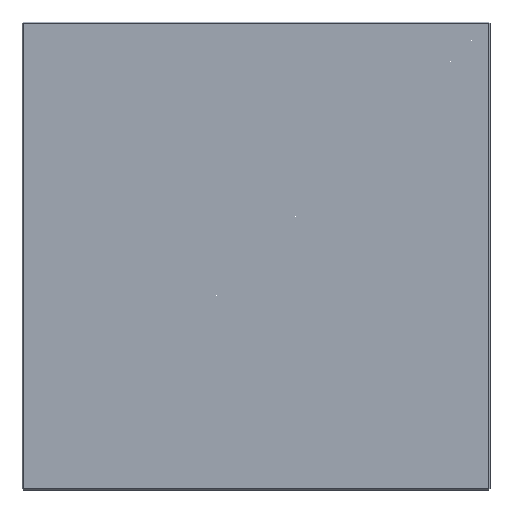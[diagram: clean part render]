
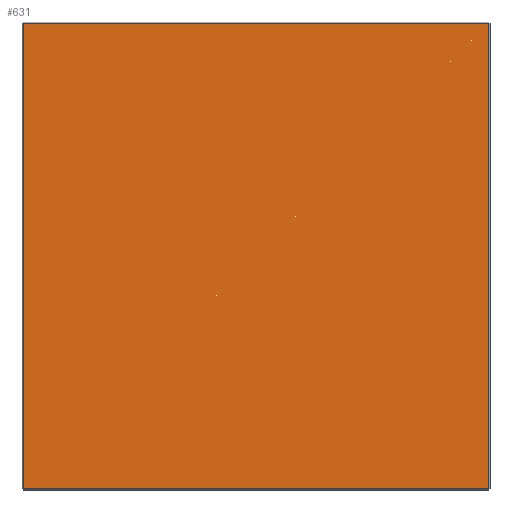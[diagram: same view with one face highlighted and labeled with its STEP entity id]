
A CAD part, front view. The second image highlights one B-rep face of the part: STEP entity #631.
In plain terms, the highlighted planar face has unit normal (0, -1, 0).
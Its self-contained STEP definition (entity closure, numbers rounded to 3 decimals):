
#23 = EDGE_CURVE ( 'NONE', #56, #633, #321, .T. ) ;
#42 = VECTOR ( 'NONE', #507, 1000. ) ;
#56 = VERTEX_POINT ( 'NONE', #348 ) ;
#68 = ORIENTED_EDGE ( 'NONE', *, *, #243, .T. ) ;
#71 = VECTOR ( 'NONE', #288, 1000. ) ;
#125 = EDGE_CURVE ( 'NONE', #633, #430, #249, .T. ) ;
#151 = VECTOR ( 'NONE', #323, 1000. ) ;
#170 = PLANE ( 'NONE',  #220 ) ;
#187 = CARTESIAN_POINT ( 'NONE',  ( 0., 0., 0. ) ) ;
#220 = AXIS2_PLACEMENT_3D ( 'NONE', #187, #402, #382 ) ;
#222 = EDGE_LOOP ( 'NONE', ( #370, #280, #68, #271 ) ) ;
#243 = EDGE_CURVE ( 'NONE', #464, #56, #477, .T. ) ;
#249 = LINE ( 'NONE', #257, #151 ) ;
#257 = CARTESIAN_POINT ( 'NONE',  ( 222., 0., 0. ) ) ;
#271 = ORIENTED_EDGE ( 'NONE', *, *, #23, .T. ) ;
#280 = ORIENTED_EDGE ( 'NONE', *, *, #287, .T. ) ;
#287 = EDGE_CURVE ( 'NONE', #430, #464, #452, .T. ) ;
#288 = DIRECTION ( 'NONE',  ( 0., 0., -1. ) ) ;
#321 = LINE ( 'NONE', #639, #548 ) ;
#323 = DIRECTION ( 'NONE',  ( 0., 0., 1. ) ) ;
#336 = CARTESIAN_POINT ( 'NONE',  ( -222., 0., 0. ) ) ;
#348 = CARTESIAN_POINT ( 'NONE',  ( -222., 0., -222. ) ) ;
#370 = ORIENTED_EDGE ( 'NONE', *, *, #125, .T. ) ;
#374 = CARTESIAN_POINT ( 'NONE',  ( 222., 0., 222. ) ) ;
#382 = DIRECTION ( 'NONE',  ( 0., 0., 1. ) ) ;
#402 = DIRECTION ( 'NONE',  ( 0., 1., 0. ) ) ;
#419 = CARTESIAN_POINT ( 'NONE',  ( -222., 0., 222. ) ) ;
#430 = VERTEX_POINT ( 'NONE', #374 ) ;
#452 = LINE ( 'NONE', #518, #42 ) ;
#464 = VERTEX_POINT ( 'NONE', #419 ) ;
#477 = LINE ( 'NONE', #336, #71 ) ;
#507 = DIRECTION ( 'NONE',  ( -1., 0., 0. ) ) ;
#512 = FACE_OUTER_BOUND ( 'NONE', #222, .T. ) ;
#518 = CARTESIAN_POINT ( 'NONE',  ( 0., 0., 222. ) ) ;
#548 = VECTOR ( 'NONE', #595, 1000. ) ;
#553 = CARTESIAN_POINT ( 'NONE',  ( 222., 0., -222. ) ) ;
#595 = DIRECTION ( 'NONE',  ( 1., 0., 0. ) ) ;
#631 = ADVANCED_FACE ( 'NONE', ( #512 ), #170, .F. ) ;
#633 = VERTEX_POINT ( 'NONE', #553 ) ;
#639 = CARTESIAN_POINT ( 'NONE',  ( 0., 0., -222. ) ) ;
